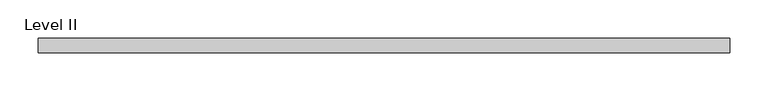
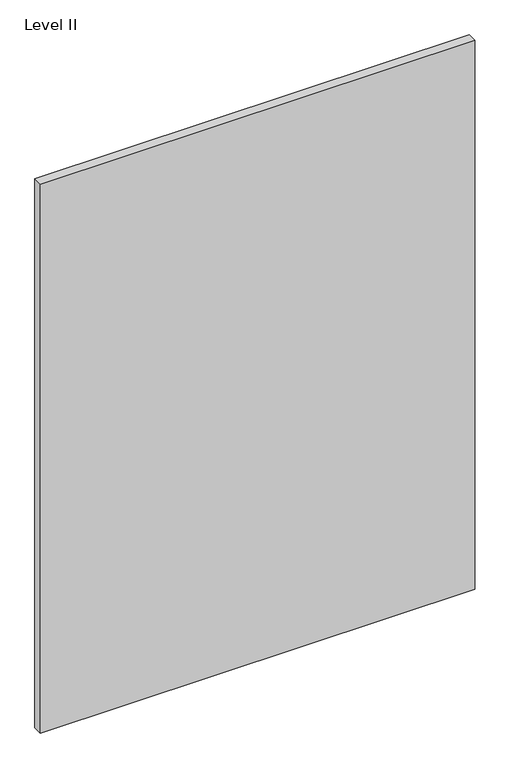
"""IFC4 building model written with IfcOpenShell, lengths in millimetres: proxy geometry, Panel-Fascia-Teknion-Altos-Standard : Level II."""

import ifcopenshell
import ifcopenshell.guid

model = None  # the IFC model being written
_history = None  # IfcOwnerHistory: only IFC2X3 demands one
_inside = {}  # id of a spatial element -> (the spatial element, [elements in it])
_under = {}  # id of a project, library or spatial element -> (it, [spatial elements below it])
_declared = {}  # id of a project -> (the project, [libraries it declares])
_typed = {}  # id of a type object -> (the type object, [elements of that type])
_made_of = {}  # id of a material, layer set ... -> (it, [elements and type objects made of it])


def new_model(schema):
    """Start an empty IFC model of exactly this schema.

    Asked for "IFC4X3", IfcOpenShell would pick the latest addendum, in which some entities
    have other attributes; the version numbers below select the first issue.
    IFC2X3 requires an IfcOwnerHistory on every rooted entity: one is made here for all.
    """
    global model, _history
    if schema == "IFC4X3":
        model = ifcopenshell.file(schema_version=(4, 3, 0, 0))
    else:
        model = ifcopenshell.file(schema=schema)
    _inside.clear()
    _under.clear()
    _declared.clear()
    _typed.clear()
    _made_of.clear()
    _history = None
    if model.schema == "IFC2X3":
        org = make("IfcOrganization", Name="unknown")
        user = make(
            "IfcPersonAndOrganization",
            ThePerson=make("IfcPerson", FamilyName="unknown"),
            TheOrganization=org,
        )
        app = make(
            "IfcApplication",
            ApplicationDeveloper=org,
            Version="unknown",
            ApplicationFullName="unknown",
            ApplicationIdentifier="unknown",
        )
        _history = make(
            "IfcOwnerHistory",
            OwningUser=user,
            OwningApplication=app,
            ChangeAction="ADDED",
            CreationDate=0,
        )
    return model


def make(cls, **values):
    """One entity of the class cls with the attributes given. An attribute that is None is left unset."""
    return model.create_entity(
        cls, **{name: value for name, value in values.items() if value is not None}
    )


def rooted(cls, **values):
    """An entity with a GlobalId (a new one), such as an element, a storey or a relation."""
    return make(cls, GlobalId=ifcopenshell.guid.new(), OwnerHistory=_history, **values)


def si_unit(unit_type, name, prefix=None):
    """IfcSIUnit, for example si_unit("LENGTHUNIT", "METRE", prefix="MILLI")."""
    return make("IfcSIUnit", UnitType=unit_type, Prefix=prefix, Name=name)


def assignment(units):
    """IfcUnitAssignment: the units of a project."""
    return None if units is None else make("IfcUnitAssignment", Units=units)


def point(xyz):
    """IfcCartesianPoint."""
    return None if xyz is None else make("IfcCartesianPoint", Coordinates=xyz)


def direction(xyz):
    """IfcDirection."""
    return None if xyz is None else make("IfcDirection", DirectionRatios=xyz)


def frame(location, z_axis=None, x_axis=None):
    """IfcAxis2Placement3D, a coordinate frame: its origin and axes. An axis left out is left unset."""
    return make(
        "IfcAxis2Placement3D",
        Location=point(location),
        Axis=direction(z_axis),
        RefDirection=direction(x_axis),
    )


def origin():
    """The frame at (0, 0, 0) with its axes left unset."""
    return frame((0.0, 0.0, 0.0))


def place(relative_to, where):
    """IfcLocalPlacement: puts the frame where relative to a parent placement (None: the world)."""
    return make(
        "IfcLocalPlacement", PlacementRelTo=relative_to, RelativePlacement=where
    )


def context(
    kind, dimensions, precision=None, world=None, true_north=None, identifier=None
):
    """IfcGeometricRepresentationContext, for example the 3D "Model" context."""
    return make(
        "IfcGeometricRepresentationContext",
        ContextIdentifier=identifier,
        ContextType=kind,
        CoordinateSpaceDimension=dimensions,
        Precision=precision,
        WorldCoordinateSystem=world,
        TrueNorth=true_north,
    )


def project(units=None, contexts=None):
    """IfcProject with its units and contexts."""
    return rooted(
        "IfcProject",
        Name="project",
        RepresentationContexts=contexts,
        UnitsInContext=assignment(units),
    )


def spatial(cls, under=None, at=None, **own):
    """A site, building, storey or space (cls), placed at a placement, below another one or the project."""
    s = rooted(cls, ObjectPlacement=at, **own)
    if under is not None:
        _under.setdefault(under.id(), (under, []))[1].append(s)
    return s


def polyline(points):
    """IfcPolyline through the points."""
    return make("IfcPolyline", Points=[point(p) for p in points])


def outline(outer, holes=None, kind="AREA"):
    """IfcArbitraryClosedProfileDef: a profile drawn as a closed curve; with holes, ...WithVoids."""
    if holes is None:
        return make("IfcArbitraryClosedProfileDef", ProfileType=kind, OuterCurve=outer)
    return make(
        "IfcArbitraryProfileDefWithVoids",
        ProfileType=kind,
        OuterCurve=outer,
        InnerCurves=holes,
    )


def extrude(swept, where, along, depth):
    """IfcExtrudedAreaSolid: the profile swept, set in the frame where, extruded along a direction by depth."""
    return make(
        "IfcExtrudedAreaSolid",
        SweptArea=swept,
        Position=where,
        ExtrudedDirection=direction(along),
        Depth=depth,
    )


def shape(context_of_items, identifier, shape_type, items):
    """IfcShapeRepresentation: the items that make up one representation, for example the "Body"."""
    return make(
        "IfcShapeRepresentation",
        ContextOfItems=context_of_items,
        RepresentationIdentifier=identifier,
        RepresentationType=shape_type,
        Items=items,
    )


def source(mapping_origin, context_of_items, identifier, shape_type, items):
    """IfcRepresentationMap: a shape defined once, which mapped items show again and again."""
    return make(
        "IfcRepresentationMap",
        MappingOrigin=mapping_origin,
        MappedRepresentation=shape(context_of_items, identifier, shape_type, items),
    )


def transform(
    local_origin,
    x_axis=None,
    y_axis=None,
    z_axis=None,
    scale=None,
    scale2=None,
    scale3=None,
    uniform=True,
):
    """IfcCartesianTransformationOperator3D, or its non-uniform kind. x_axis, y_axis, z_axis: its Axis1, 2, 3."""
    if uniform:
        return make(
            "IfcCartesianTransformationOperator3D",
            Axis1=direction(x_axis),
            Axis2=direction(y_axis),
            LocalOrigin=point(local_origin),
            Scale=scale,
            Axis3=direction(z_axis),
        )
    return make(
        "IfcCartesianTransformationOperator3DnonUniform",
        Axis1=direction(x_axis),
        Axis2=direction(y_axis),
        LocalOrigin=point(local_origin),
        Scale=scale,
        Axis3=direction(z_axis),
        Scale2=scale2,
        Scale3=scale3,
    )


def mapped(mapping_source, mapping_target):
    """IfcMappedItem: shows the shape of a source again, moved by a transform."""
    return make(
        "IfcMappedItem", MappingSource=mapping_source, MappingTarget=mapping_target
    )


def made_of(thing, what):
    """Note that an element or type object is made of a material, layer set ...; save() writes the relation."""
    if what is not None:
        _made_of.setdefault(what.id(), (what, []))[1].append(thing)
    return thing


def element(
    cls,
    number,
    at=None,
    inside=None,
    cuts=None,
    type_object=None,
    material=None,
    context=None,
    identifier="Body",
    shape_type=None,
    held_by="IfcProductDefinitionShape",
    body=None,
    shapes=None,
    **own,
):
    """One element of the class cls, such as IfcWall. Its Tag is "e" and its number.

    at: its placement. inside: the storey or other place that contains it. cuts: it is an
    opening in that element (IfcRelVoidsElement). A single representation is given by context,
    identifier, shape_type and body (its items); several are given by shapes. held_by: the class
    of the entity that holds the representations. save() writes the other relations.
    """
    e = rooted(cls, Tag="e%d" % number, ObjectPlacement=at, **own)
    if body is not None:
        shapes = [shape(context, identifier, shape_type, body)]
    if shapes is not None:
        e.Representation = make(held_by, Representations=shapes)
    if inside is not None:
        _inside.setdefault(inside.id(), (inside, []))[1].append(e)
    if cuts is not None:
        rooted(
            "IfcRelVoidsElement", RelatingBuildingElement=cuts, RelatedOpeningElement=e
        )
    if type_object is not None:
        _typed.setdefault(type_object.id(), (type_object, []))[1].append(e)
    return made_of(e, material)


def aggregate(whole, parts):
    """IfcRelAggregates: a whole, such as a stair, and the parts it consists of."""
    return rooted("IfcRelAggregates", RelatingObject=whole, RelatedObjects=parts)


def save(model, path):
    """Write the relations noted so far, then the file.

    IfcRelAggregates (storeys below a building ...), IfcRelContainedInSpatialStructure (elements
    in a storey), IfcRelDefinesByType, IfcRelAssociatesMaterial and IfcRelDeclares: one each for
    every whole, place, type object, material and project.
    """
    for whole, parts in _under.values():
        aggregate(whole, parts)
    for where, things in _inside.values():
        rooted(
            "IfcRelContainedInSpatialStructure",
            RelatedElements=things,
            RelatingStructure=where,
        )
    for kind, things in _typed.values():
        rooted("IfcRelDefinesByType", RelatedObjects=things, RelatingType=kind)
    for what, things in _made_of.values():
        rooted("IfcRelAssociatesMaterial", RelatedObjects=things, RelatingMaterial=what)
    for by, libraries in _declared.values():
        rooted("IfcRelDeclares", RelatingContext=by, RelatedDefinitions=libraries)
    model.write(path)


def level_ii_5838736d(model_context):
    return source(origin(), model_context, "Body", "SweptSolid", [
        extrude(outline(polyline([(454.025, -9.525), (-454.025, -9.525), (-454.025, 9.525), (454.025, 9.525), (454.025, -9.525)])), frame((0.0, 0.0, 3.175), z_axis=(0.0, 0.0, 1.0), x_axis=(1.0, 0.0, 0.0)), (0.0, 0.0, 1.0), 1212.85),
    ])


if __name__ == "__main__":
    model = new_model("IFC4")
    model_context = context("Model", 3, world=origin())
    ifc_project = project(units=[si_unit("LENGTHUNIT", "METRE", prefix="MILLI")], contexts=[model_context])
    site = spatial("IfcSite", under=ifc_project)
    building = spatial("IfcBuilding", under=site)
    placement = place(None, origin())
    level_ii_shape = level_ii_5838736d(model_context)
    element("IfcBuildingElementProxy", 1, Name="Panel-Fascia-Teknion-Altos-Standard : Level II", ObjectType="Panel-Fascia-Teknion-Altos-Standard : Level II", at=placement, inside=building, context=model_context, shape_type="MappedRepresentation", body=[
        mapped(level_ii_shape, transform((0.0, 0.0, 0.0), x_axis=(1.0, 0.0, 0.0), y_axis=(0.0, 1.0, 0.0), z_axis=(0.0, 0.0, 1.0))),
    ])
    save(model, "model.ifc")
